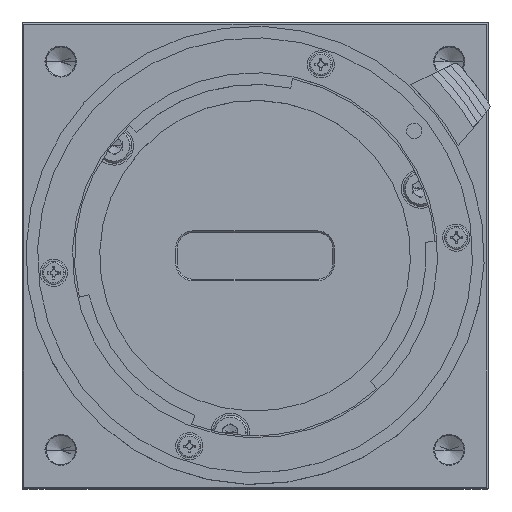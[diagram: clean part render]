
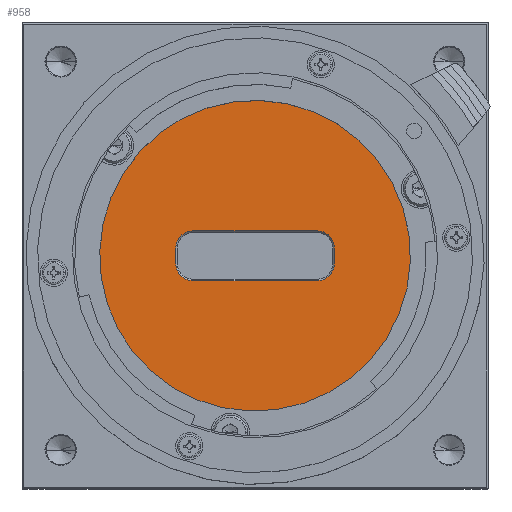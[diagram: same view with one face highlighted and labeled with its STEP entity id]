
A CAD part, top view. The second image highlights one B-rep face of the part: STEP entity #958.
In plain terms, the highlighted planar face has unit normal (0, 0, 1).
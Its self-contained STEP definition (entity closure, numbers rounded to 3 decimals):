
#67 = DIRECTION ( 'NONE',  ( 1., 0., 0. ) ) ;
#294 = DIRECTION ( 'NONE',  ( 1., 0., 0. ) ) ;
#402 = DIRECTION ( 'NONE',  ( 1., 0., 0. ) ) ;
#958 = ADVANCED_FACE ( 'NONE', ( #4710, #43041 ), #18035, .T. ) ;
#2676 = CARTESIAN_POINT ( 'NONE',  ( 22., 26.8, -4.4 ) ) ;
#3161 = DIRECTION ( 'NONE',  ( 0., 0., -1. ) ) ;
#3786 = CARTESIAN_POINT ( 'NONE',  ( 19.8, 29., -4.4 ) ) ;
#3977 = ORIENTED_EDGE ( 'NONE', *, *, #7118, .T. ) ;
#4710 = FACE_BOUND ( 'NONE', #10078, .T. ) ;
#5758 = VECTOR ( 'NONE', #37465, 1000. ) ;
#7118 = EDGE_CURVE ( 'NONE', #46734, #43275, #13903, .T. ) ;
#7134 = VECTOR ( 'NONE', #45172, 1000. ) ;
#7658 = LINE ( 'NONE', #13261, #16083 ) ;
#7933 = CARTESIAN_POINT ( 'NONE',  ( 9., 30., -4.4 ) ) ;
#7961 = DIRECTION ( 'NONE',  ( 0., 0., -1. ) ) ;
#9355 = DIRECTION ( 'NONE',  ( 0., 0., -1. ) ) ;
#9520 = ORIENTED_EDGE ( 'NONE', *, *, #39324, .T. ) ;
#10078 = EDGE_LOOP ( 'NONE', ( #21265, #42227, #34248, #3977, #14877, #27269, #27512, #9520 ) ) ;
#11467 = VERTEX_POINT ( 'NONE', #7933 ) ;
#12024 = CIRCLE ( 'NONE', #26121, 2.2 ) ;
#13159 = ORIENTED_EDGE ( 'NONE', *, *, #34836, .T. ) ;
#13261 = CARTESIAN_POINT ( 'NONE',  ( 22., 26.8, -4.4 ) ) ;
#13685 = CARTESIAN_POINT ( 'NONE',  ( 30., 30., -4.4 ) ) ;
#13902 = CARTESIAN_POINT ( 'NONE',  ( 40.2, 29., -4.4 ) ) ;
#13903 = CIRCLE ( 'NONE', #25911, 2.2 ) ;
#14051 = ORIENTED_EDGE ( 'NONE', *, *, #43305, .T. ) ;
#14420 = CARTESIAN_POINT ( 'NONE',  ( 30., 30., -4.4 ) ) ;
#14877 = ORIENTED_EDGE ( 'NONE', *, *, #43728, .T. ) ;
#15716 = EDGE_CURVE ( 'NONE', #26821, #24646, #12024, .T. ) ;
#15888 = CARTESIAN_POINT ( 'NONE',  ( 40.2, 29., -4.4 ) ) ;
#15921 = VERTEX_POINT ( 'NONE', #45513 ) ;
#16083 = VECTOR ( 'NONE', #16864, 1000. ) ;
#16636 = EDGE_CURVE ( 'NONE', #43507, #44436, #17012, .T. ) ;
#16864 = DIRECTION ( 'NONE',  ( -1., 0., 0. ) ) ;
#17012 = CIRCLE ( 'NONE', #24015, 2.2 ) ;
#17282 = DIRECTION ( 'NONE',  ( 1., 0., 0. ) ) ;
#17804 = LINE ( 'NONE', #19983, #7134 ) ;
#18035 = PLANE ( 'NONE',  #20703 ) ;
#19983 = CARTESIAN_POINT ( 'NONE',  ( 19.8, 31., -4.4 ) ) ;
#20703 = AXIS2_PLACEMENT_3D ( 'NONE', #14420, #21650, #67 ) ;
#20741 = CARTESIAN_POINT ( 'NONE',  ( 38., 33.2, -4.4 ) ) ;
#20809 = VERTEX_POINT ( 'NONE', #25601 ) ;
#21265 = ORIENTED_EDGE ( 'NONE', *, *, #38019, .T. ) ;
#21302 = CARTESIAN_POINT ( 'NONE',  ( 22., 33.2, -4.4 ) ) ;
#21650 = DIRECTION ( 'NONE',  ( 0., 0., 1. ) ) ;
#21896 = DIRECTION ( 'NONE',  ( 0., 0., 1. ) ) ;
#21995 = DIRECTION ( 'NONE',  ( 0., 0., -1. ) ) ;
#22333 = CIRCLE ( 'NONE', #39826, 21. ) ;
#24015 = AXIS2_PLACEMENT_3D ( 'NONE', #30914, #9355, #34521 ) ;
#24646 = VERTEX_POINT ( 'NONE', #34457 ) ;
#24752 = CARTESIAN_POINT ( 'NONE',  ( 22., 29., -4.4 ) ) ;
#24849 = EDGE_CURVE ( 'NONE', #44436, #15921, #28136, .T. ) ;
#25601 = CARTESIAN_POINT ( 'NONE',  ( 51., 30., -4.4 ) ) ;
#25911 = AXIS2_PLACEMENT_3D ( 'NONE', #24752, #3161, #28379 ) ;
#26121 = AXIS2_PLACEMENT_3D ( 'NONE', #29489, #7961, #33131 ) ;
#26821 = VERTEX_POINT ( 'NONE', #13902 ) ;
#27269 = ORIENTED_EDGE ( 'NONE', *, *, #16636, .T. ) ;
#27512 = ORIENTED_EDGE ( 'NONE', *, *, #24849, .T. ) ;
#28136 = LINE ( 'NONE', #20741, #36588 ) ;
#28379 = DIRECTION ( 'NONE',  ( 1., 0., 0. ) ) ;
#29112 = CIRCLE ( 'NONE', #30434, 21. ) ;
#29489 = CARTESIAN_POINT ( 'NONE',  ( 38., 29., -4.4 ) ) ;
#29771 = CARTESIAN_POINT ( 'NONE',  ( 19.8, 31., -4.4 ) ) ;
#30434 = AXIS2_PLACEMENT_3D ( 'NONE', #43469, #21896, #294 ) ;
#30630 = CARTESIAN_POINT ( 'NONE',  ( 40.2, 31., -4.4 ) ) ;
#30914 = CARTESIAN_POINT ( 'NONE',  ( 22., 31., -4.4 ) ) ;
#33131 = DIRECTION ( 'NONE',  ( 1., 0., 0. ) ) ;
#33565 = AXIS2_PLACEMENT_3D ( 'NONE', #43568, #21995, #402 ) ;
#34248 = ORIENTED_EDGE ( 'NONE', *, *, #35997, .T. ) ;
#34457 = CARTESIAN_POINT ( 'NONE',  ( 38., 26.8, -4.4 ) ) ;
#34521 = DIRECTION ( 'NONE',  ( 1., 0., 0. ) ) ;
#34836 = EDGE_CURVE ( 'NONE', #20809, #11467, #22333, .T. ) ;
#35997 = EDGE_CURVE ( 'NONE', #24646, #46734, #7658, .T. ) ;
#36588 = VECTOR ( 'NONE', #42161, 1000. ) ;
#37465 = DIRECTION ( 'NONE',  ( 0., -1., 0. ) ) ;
#38019 = EDGE_CURVE ( 'NONE', #38726, #26821, #42923, .T. ) ;
#38726 = VERTEX_POINT ( 'NONE', #30630 ) ;
#38874 = DIRECTION ( 'NONE',  ( 0., 0., 1. ) ) ;
#39324 = EDGE_CURVE ( 'NONE', #15921, #38726, #42835, .T. ) ;
#39826 = AXIS2_PLACEMENT_3D ( 'NONE', #13685, #38874, #17282 ) ;
#42161 = DIRECTION ( 'NONE',  ( 1., 0., 0. ) ) ;
#42227 = ORIENTED_EDGE ( 'NONE', *, *, #15716, .T. ) ;
#42835 = CIRCLE ( 'NONE', #33565, 2.2 ) ;
#42923 = LINE ( 'NONE', #15888, #5758 ) ;
#43041 = FACE_OUTER_BOUND ( 'NONE', #43933, .T. ) ;
#43275 = VERTEX_POINT ( 'NONE', #3786 ) ;
#43305 = EDGE_CURVE ( 'NONE', #11467, #20809, #29112, .T. ) ;
#43469 = CARTESIAN_POINT ( 'NONE',  ( 30., 30., -4.4 ) ) ;
#43507 = VERTEX_POINT ( 'NONE', #29771 ) ;
#43568 = CARTESIAN_POINT ( 'NONE',  ( 38., 31., -4.4 ) ) ;
#43728 = EDGE_CURVE ( 'NONE', #43275, #43507, #17804, .T. ) ;
#43933 = EDGE_LOOP ( 'NONE', ( #13159, #14051 ) ) ;
#44436 = VERTEX_POINT ( 'NONE', #21302 ) ;
#45172 = DIRECTION ( 'NONE',  ( 0., 1., 0. ) ) ;
#45513 = CARTESIAN_POINT ( 'NONE',  ( 38., 33.2, -4.4 ) ) ;
#46734 = VERTEX_POINT ( 'NONE', #2676 ) ;
